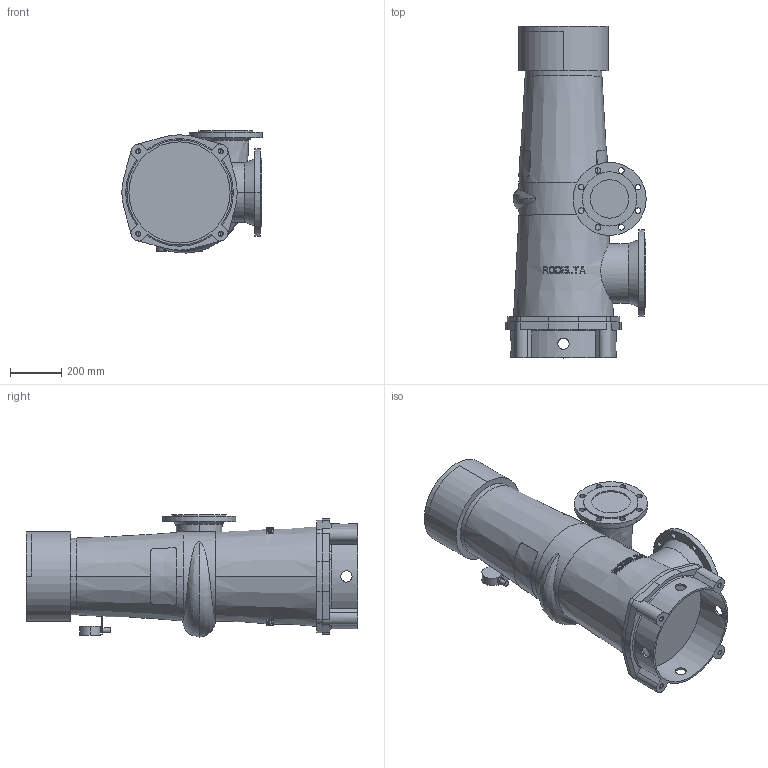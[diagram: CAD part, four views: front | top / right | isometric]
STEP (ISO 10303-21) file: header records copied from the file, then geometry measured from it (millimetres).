
FILE_DESCRIPTION((''),'2;1');
FILE_NAME('7310_ASM','2024-07-23T',('Lyritlocal'),(''),'PRO/ENGINEER BY PARAMETRIC TECHNOLOGY CORPORATION, 2016360','PRO/ENGINEER BY PARAMETRIC TECHNOLOGY CORPORATION, 2016360','');
FILE_SCHEMA(('CONFIG_CONTROL_DESIGN'));
Length unit declared in the file: millimetre
Products named in the file (3): 7310_VOET; 7310; 7310_ASM
Assembly tree (2 placements, depth 2):
  7310_ASM
    7310_VOET
    7310
Bounding box: 547.5 x 1295 x 476.54 mm (x, y, z)
Volume: 130921154 mm3; surface area: 2758235.8 mm2
Topology: 2 solids, 6 shells, 520 faces, 1400 edges, 927 vertices
Faces by surface type: plane 343, cylinder 129, cone 38, bspline 6, torus 4
Entity records: 18158 total; most frequent: CARTESIAN_POINT 5526, ORIENTED_EDGE 2768, DIRECTION 2357, EDGE_CURVE 1392, VERTEX_POINT 927, AXIS2_PLACEMENT_3D 912, EDGE_LOOP 611, VECTOR 533
